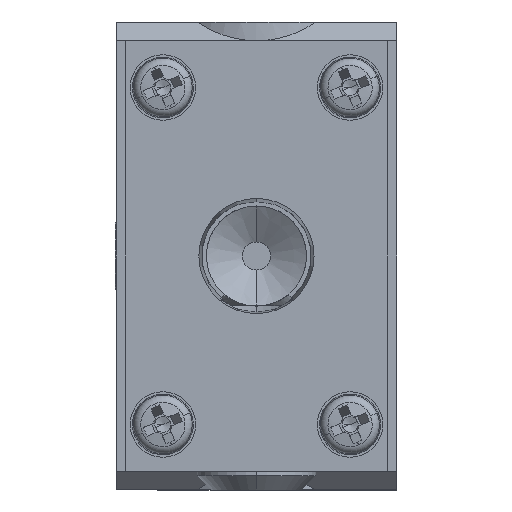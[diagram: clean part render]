
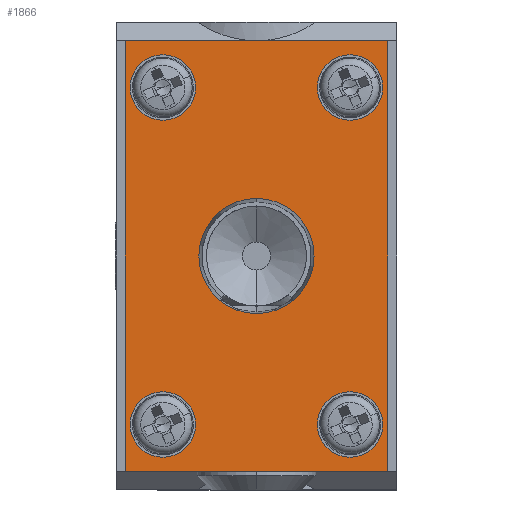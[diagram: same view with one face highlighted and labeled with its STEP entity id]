
A CAD part, left-side view. The second image highlights one B-rep face of the part: STEP entity #1866.
In plain terms, the highlighted planar face has unit normal (-1, 0, 0) as drawn and (1, 0, 0) by its records, which use the part's own axes.
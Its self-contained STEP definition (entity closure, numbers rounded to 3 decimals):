
#5 = VERTEX_POINT ( 'NONE', #8492 ) ;
#23 = ORIENTED_EDGE ( 'NONE', *, *, #5257, .F. ) ;
#87 = CARTESIAN_POINT ( 'NONE',  ( 45.5, 0., 0. ) ) ;
#92 = CARTESIAN_POINT ( 'NONE',  ( 45.5, 14., -23. ) ) ;
#158 = AXIS2_PLACEMENT_3D ( 'NONE', #4405, #12463, #5550 ) ;
#298 = CARTESIAN_POINT ( 'NONE',  ( 45.5, 14., 23. ) ) ;
#592 = VECTOR ( 'NONE', #698, 1000. ) ;
#698 = DIRECTION ( 'NONE',  ( 0., 1., 0. ) ) ;
#736 = VERTEX_POINT ( 'NONE', #1177 ) ;
#1010 = CARTESIAN_POINT ( 'NONE',  ( 45.5, 14., 23. ) ) ;
#1177 = CARTESIAN_POINT ( 'NONE',  ( 45.5, -13.5, -18. ) ) ;
#1240 = PLANE ( 'NONE',  #6254 ) ;
#1269 = FACE_BOUND ( 'NONE', #1788, .T. ) ;
#1301 = ORIENTED_EDGE ( 'NONE', *, *, #11583, .F. ) ;
#1398 = DIRECTION ( 'NONE',  ( 0., 1., 0. ) ) ;
#1474 = AXIS2_PLACEMENT_3D ( 'NONE', #2028, #11151, #14717 ) ;
#1700 = EDGE_CURVE ( 'NONE', #3445, #736, #3954, .T. ) ;
#1788 = EDGE_LOOP ( 'NONE', ( #4627, #9281 ) ) ;
#1803 = DIRECTION ( 'NONE',  ( 0., 1., 0. ) ) ;
#1866 = ADVANCED_FACE ( 'NONE', ( #4134, #8617, #7720, #1269, #6638, #13077 ), #1240, .F. ) ;
#2028 = CARTESIAN_POINT ( 'NONE',  ( 45.5, -10., -18. ) ) ;
#2061 = LINE ( 'NONE', #13658, #6532 ) ;
#2292 = DIRECTION ( 'NONE',  ( 0., -1., 0. ) ) ;
#2313 = CIRCLE ( 'NONE', #14247, 3.5 ) ;
#2388 = DIRECTION ( 'NONE',  ( 0., 1., 0. ) ) ;
#2476 = EDGE_CURVE ( 'NONE', #736, #3445, #7285, .T. ) ;
#2538 = CIRCLE ( 'NONE', #5260, 3.5 ) ;
#2580 = ORIENTED_EDGE ( 'NONE', *, *, #12656, .F. ) ;
#2587 = VERTEX_POINT ( 'NONE', #14819 ) ;
#2599 = ORIENTED_EDGE ( 'NONE', *, *, #3230, .F. ) ;
#2720 = AXIS2_PLACEMENT_3D ( 'NONE', #7911, #6649, #6593 ) ;
#2775 = CIRCLE ( 'NONE', #12813, 6.154 ) ;
#3230 = EDGE_CURVE ( 'NONE', #2587, #3273, #6017, .T. ) ;
#3245 = EDGE_LOOP ( 'NONE', ( #14078, #4971 ) ) ;
#3247 = VERTEX_POINT ( 'NONE', #5465 ) ;
#3273 = VERTEX_POINT ( 'NONE', #7781 ) ;
#3445 = VERTEX_POINT ( 'NONE', #6879 ) ;
#3460 = DIRECTION ( 'NONE',  ( 1., 0., 0. ) ) ;
#3505 = CARTESIAN_POINT ( 'NONE',  ( 45.5, 10., 18. ) ) ;
#3673 = CARTESIAN_POINT ( 'NONE',  ( 45.5, 0., 6.154 ) ) ;
#3763 = EDGE_CURVE ( 'NONE', #12387, #14385, #2061, .T. ) ;
#3799 = EDGE_CURVE ( 'NONE', #4030, #6299, #2775, .T. ) ;
#3954 = CIRCLE ( 'NONE', #2720, 3.5 ) ;
#4030 = VERTEX_POINT ( 'NONE', #4147 ) ;
#4057 = CARTESIAN_POINT ( 'NONE',  ( 45.5, 14., 23. ) ) ;
#4127 = CIRCLE ( 'NONE', #7412, 3.5 ) ;
#4134 = FACE_BOUND ( 'NONE', #3245, .T. ) ;
#4147 = CARTESIAN_POINT ( 'NONE',  ( 45.5, 0., -6.154 ) ) ;
#4178 = CARTESIAN_POINT ( 'NONE',  ( 45.5, 10., -18. ) ) ;
#4235 = CARTESIAN_POINT ( 'NONE',  ( 45.5, 0., 0. ) ) ;
#4267 = ORIENTED_EDGE ( 'NONE', *, *, #3763, .T. ) ;
#4405 = CARTESIAN_POINT ( 'NONE',  ( 45.5, 10., 18. ) ) ;
#4429 = EDGE_LOOP ( 'NONE', ( #9848, #1301 ) ) ;
#4489 = CARTESIAN_POINT ( 'NONE',  ( 45.5, 10., -18. ) ) ;
#4627 = ORIENTED_EDGE ( 'NONE', *, *, #1700, .F. ) ;
#4634 = CIRCLE ( 'NONE', #12559, 6.154 ) ;
#4873 = AXIS2_PLACEMENT_3D ( 'NONE', #3505, #3460, #5738 ) ;
#4894 = DIRECTION ( 'NONE',  ( 0., 0., -1. ) ) ;
#4971 = ORIENTED_EDGE ( 'NONE', *, *, #12528, .F. ) ;
#5158 = EDGE_CURVE ( 'NONE', #14385, #5357, #6690, .T. ) ;
#5257 = EDGE_CURVE ( 'NONE', #9486, #12627, #11355, .T. ) ;
#5260 = AXIS2_PLACEMENT_3D ( 'NONE', #11598, #5880, #2388 ) ;
#5357 = VERTEX_POINT ( 'NONE', #92 ) ;
#5465 = CARTESIAN_POINT ( 'NONE',  ( 45.5, -6.5, 18. ) ) ;
#5550 = DIRECTION ( 'NONE',  ( 0., 1., 0. ) ) ;
#5738 = DIRECTION ( 'NONE',  ( 0., 1., 0. ) ) ;
#5839 = DIRECTION ( 'NONE',  ( -1., 0., 0. ) ) ;
#5880 = DIRECTION ( 'NONE',  ( 1., 0., 0. ) ) ;
#6017 = CIRCLE ( 'NONE', #11380, 3.5 ) ;
#6132 = EDGE_LOOP ( 'NONE', ( #2580, #2599 ) ) ;
#6254 = AXIS2_PLACEMENT_3D ( 'NONE', #9262, #5839, #2292 ) ;
#6299 = VERTEX_POINT ( 'NONE', #3673 ) ;
#6361 = EDGE_CURVE ( 'NONE', #7962, #5357, #7370, .T. ) ;
#6390 = CARTESIAN_POINT ( 'NONE',  ( 45.5, 14., -23. ) ) ;
#6532 = VECTOR ( 'NONE', #11418, 1000. ) ;
#6581 = DIRECTION ( 'NONE',  ( 1., 0., 0. ) ) ;
#6593 = DIRECTION ( 'NONE',  ( 0., 1., 0. ) ) ;
#6638 = FACE_BOUND ( 'NONE', #6132, .T. ) ;
#6649 = DIRECTION ( 'NONE',  ( 1., 0., 0. ) ) ;
#6690 = LINE ( 'NONE', #6390, #592 ) ;
#6879 = CARTESIAN_POINT ( 'NONE',  ( 45.5, -6.5, -18. ) ) ;
#6950 = EDGE_CURVE ( 'NONE', #3247, #5, #2538, .T. ) ;
#6979 = CIRCLE ( 'NONE', #4873, 3.5 ) ;
#7272 = ORIENTED_EDGE ( 'NONE', *, *, #10431, .F. ) ;
#7285 = CIRCLE ( 'NONE', #1474, 3.5 ) ;
#7339 = LINE ( 'NONE', #4057, #8623 ) ;
#7370 = LINE ( 'NONE', #298, #8455 ) ;
#7412 = AXIS2_PLACEMENT_3D ( 'NONE', #8215, #11804, #1398 ) ;
#7720 = FACE_BOUND ( 'NONE', #10288, .T. ) ;
#7781 = CARTESIAN_POINT ( 'NONE',  ( 45.5, 13.5, -18. ) ) ;
#7911 = CARTESIAN_POINT ( 'NONE',  ( 45.5, -10., -18. ) ) ;
#7962 = VERTEX_POINT ( 'NONE', #1010 ) ;
#8215 = CARTESIAN_POINT ( 'NONE',  ( 45.5, -10., 18. ) ) ;
#8455 = VECTOR ( 'NONE', #4894, 1000. ) ;
#8492 = CARTESIAN_POINT ( 'NONE',  ( 45.5, -13.5, 18. ) ) ;
#8545 = ORIENTED_EDGE ( 'NONE', *, *, #12155, .F. ) ;
#8617 = FACE_BOUND ( 'NONE', #4429, .T. ) ;
#8623 = VECTOR ( 'NONE', #1803, 1000. ) ;
#9262 = CARTESIAN_POINT ( 'NONE',  ( 45.5, 14., 23. ) ) ;
#9281 = ORIENTED_EDGE ( 'NONE', *, *, #2476, .F. ) ;
#9486 = VERTEX_POINT ( 'NONE', #13347 ) ;
#9544 = ORIENTED_EDGE ( 'NONE', *, *, #6361, .F. ) ;
#9709 = CARTESIAN_POINT ( 'NONE',  ( 45.5, -14., 23. ) ) ;
#9728 = CARTESIAN_POINT ( 'NONE',  ( 45.5, -14., -23. ) ) ;
#9848 = ORIENTED_EDGE ( 'NONE', *, *, #6950, .F. ) ;
#9988 = DIRECTION ( 'NONE',  ( 1., 0., 0. ) ) ;
#10288 = EDGE_LOOP ( 'NONE', ( #8545, #23 ) ) ;
#10365 = DIRECTION ( 'NONE',  ( 1., 0., 0. ) ) ;
#10431 = EDGE_CURVE ( 'NONE', #12387, #7962, #7339, .T. ) ;
#11151 = DIRECTION ( 'NONE',  ( 1., 0., 0. ) ) ;
#11355 = CIRCLE ( 'NONE', #158, 3.5 ) ;
#11357 = CARTESIAN_POINT ( 'NONE',  ( 45.5, 13.5, 18. ) ) ;
#11380 = AXIS2_PLACEMENT_3D ( 'NONE', #4178, #9988, #12115 ) ;
#11418 = DIRECTION ( 'NONE',  ( 0., 0., -1. ) ) ;
#11583 = EDGE_CURVE ( 'NONE', #5, #3247, #4127, .T. ) ;
#11598 = CARTESIAN_POINT ( 'NONE',  ( 45.5, -10., 18. ) ) ;
#11804 = DIRECTION ( 'NONE',  ( 1., 0., 0. ) ) ;
#12013 = EDGE_LOOP ( 'NONE', ( #13891, #9544, #7272, #4267 ) ) ;
#12115 = DIRECTION ( 'NONE',  ( 0., 1., 0. ) ) ;
#12155 = EDGE_CURVE ( 'NONE', #12627, #9486, #6979, .T. ) ;
#12234 = DIRECTION ( 'NONE',  ( 0., 0., -1. ) ) ;
#12387 = VERTEX_POINT ( 'NONE', #9709 ) ;
#12396 = DIRECTION ( 'NONE',  ( 1., 0., 0. ) ) ;
#12463 = DIRECTION ( 'NONE',  ( 1., 0., 0. ) ) ;
#12528 = EDGE_CURVE ( 'NONE', #6299, #4030, #4634, .T. ) ;
#12559 = AXIS2_PLACEMENT_3D ( 'NONE', #4235, #6581, #12234 ) ;
#12627 = VERTEX_POINT ( 'NONE', #11357 ) ;
#12656 = EDGE_CURVE ( 'NONE', #3273, #2587, #2313, .T. ) ;
#12708 = DIRECTION ( 'NONE',  ( 0., 0., -1. ) ) ;
#12813 = AXIS2_PLACEMENT_3D ( 'NONE', #87, #10365, #12708 ) ;
#13077 = FACE_OUTER_BOUND ( 'NONE', #12013, .T. ) ;
#13347 = CARTESIAN_POINT ( 'NONE',  ( 45.5, 6.5, 18. ) ) ;
#13658 = CARTESIAN_POINT ( 'NONE',  ( 45.5, -14., 23. ) ) ;
#13891 = ORIENTED_EDGE ( 'NONE', *, *, #5158, .T. ) ;
#14078 = ORIENTED_EDGE ( 'NONE', *, *, #3799, .F. ) ;
#14247 = AXIS2_PLACEMENT_3D ( 'NONE', #4489, #12396, #14617 ) ;
#14385 = VERTEX_POINT ( 'NONE', #9728 ) ;
#14617 = DIRECTION ( 'NONE',  ( 0., 1., 0. ) ) ;
#14717 = DIRECTION ( 'NONE',  ( 0., 1., 0. ) ) ;
#14819 = CARTESIAN_POINT ( 'NONE',  ( 45.5, 6.5, -18. ) ) ;
